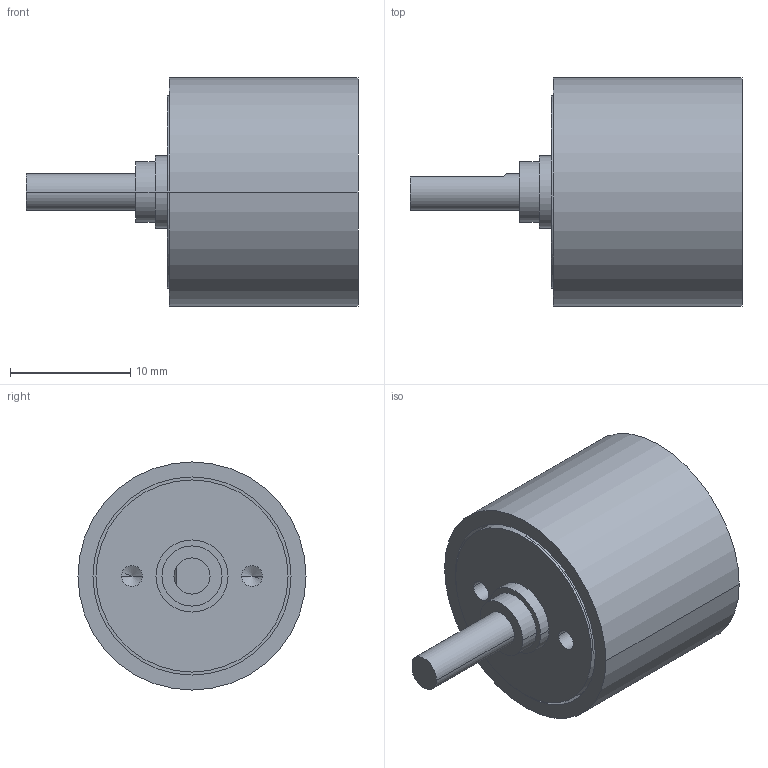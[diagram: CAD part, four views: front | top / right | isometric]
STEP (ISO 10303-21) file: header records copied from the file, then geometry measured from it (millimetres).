
FILE_DESCRIPTION((''),'2;1');
FILE_NAME('1682081','2016-10-04T',('mmagvisi'),(''),'CREO PARAMETRIC BY PTC INC, 2016050','CREO PARAMETRIC BY PTC INC, 2016050','');
FILE_SCHEMA(('CONFIG_CONTROL_DESIGN'));
Length unit declared in the file: millimetre
Products named in the file (1): 1682081
Bounding box: 27.65 x 19 x 19 mm (x, y, z)
Volume: 3952.4 mm3; surface area: 2024.2 mm2
Topology: 1 solids, 1 shells, 35 faces, 78 edges, 50 vertices
Faces by surface type: cylinder 20, plane 11, cone 4
Entity records: 1071 total; most frequent: DIRECTION 184, CARTESIAN_POINT 164, ORIENTED_EDGE 148, AXIS2_PLACEMENT_3D 77, EDGE_CURVE 74, COLOUR_RGB 58, VERTEX_POINT 50, EDGE_LOOP 44
